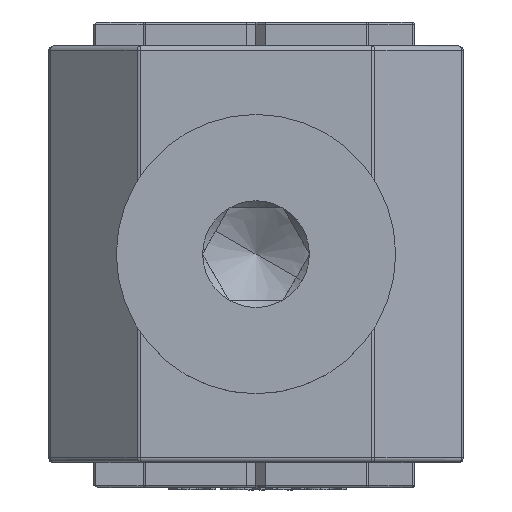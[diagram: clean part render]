
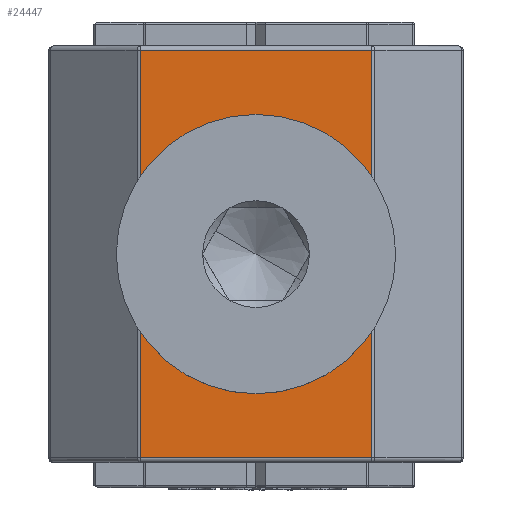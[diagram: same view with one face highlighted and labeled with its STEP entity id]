
A CAD part, top view. The second image highlights one B-rep face of the part: STEP entity #24447.
In plain terms, the highlighted planar face has unit normal (0, 0, 1) as drawn and (0, -1, 0) by its records, which use the part's own axes.
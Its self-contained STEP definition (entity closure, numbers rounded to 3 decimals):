
#109 = DIRECTION ( 'NONE',  ( 0., 1., 0. ) ) ;
#453 = AXIS2_PLACEMENT_3D ( 'NONE', #6167, #14233, #26016 ) ;
#788 = VECTOR ( 'NONE', #5586, 1000. ) ;
#1167 = ORIENTED_EDGE ( 'NONE', *, *, #24495, .T. ) ;
#2161 = ORIENTED_EDGE ( 'NONE', *, *, #17376, .T. ) ;
#2206 = CARTESIAN_POINT ( 'NONE',  ( -0.989, -4.2, -3.202 ) ) ;
#2359 = CARTESIAN_POINT ( 'NONE',  ( 4.971, -4.2, 8.95 ) ) ;
#2431 = LINE ( 'NONE', #14842, #2726 ) ;
#2470 = CARTESIAN_POINT ( 'NONE',  ( -2.342, -4.2, -2.565 ) ) ;
#2489 = EDGE_CURVE ( 'NONE', #12090, #17177, #17054, .T. ) ;
#2564 = AXIS2_PLACEMENT_3D ( 'NONE', #4332, #109, #12375 ) ;
#2726 = VECTOR ( 'NONE', #22379, 1000. ) ;
#3270 = ORIENTED_EDGE ( 'NONE', *, *, #8707, .T. ) ;
#3320 = VERTEX_POINT ( 'NONE', #16190 ) ;
#3808 = CARTESIAN_POINT ( 'NONE',  ( 4.971, -4.2, -8.75 ) ) ;
#3897 = CARTESIAN_POINT ( 'NONE',  ( -1.46, -4.2, 2.959 ) ) ;
#4029 = CARTESIAN_POINT ( 'NONE',  ( -2.854, -4.2, 1.938 ) ) ;
#4120 = VECTOR ( 'NONE', #19852, 1000. ) ;
#4209 = VERTEX_POINT ( 'NONE', #23009 ) ;
#4319 = CARTESIAN_POINT ( 'NONE',  ( -3.441, -4.2, 0.838 ) ) ;
#4332 = CARTESIAN_POINT ( 'NONE',  ( -5.05, -4.2, 8.95 ) ) ;
#4443 = CARTESIAN_POINT ( 'NONE',  ( -2.878, -4.2, -2.045 ) ) ;
#4465 = PLANE ( 'NONE',  #2564 ) ;
#4565 = CARTESIAN_POINT ( 'NONE',  ( -3.026, -4.2, -1.84 ) ) ;
#4658 = B_SPLINE_CURVE_WITH_KNOTS ( 'NONE', 3,
 ( #12327, #8350, #14061, #16322, #4029, #10205, #14316, #5852, #22004, #3897 ),
 .UNSPECIFIED., .F., .F.,
 ( 4, 2, 2, 2, 4 ),
 ( 0., 0.001, 0.001, 0.002, 0.003 ),
 .UNSPECIFIED. ) ;
#4708 = EDGE_CURVE ( 'NONE', #4209, #12090, #11079, .T. ) ;
#5586 = DIRECTION ( 'NONE',  ( -1., 0., 0. ) ) ;
#5852 = CARTESIAN_POINT ( 'NONE',  ( -1.914, -4.2, 2.751 ) ) ;
#6167 = CARTESIAN_POINT ( 'NONE',  ( 0., -4.2, 0. ) ) ;
#6180 = VERTEX_POINT ( 'NONE', #22167 ) ;
#6524 = CARTESIAN_POINT ( 'NONE',  ( -2.711, -4.2, -2.23 ) ) ;
#6667 = LINE ( 'NONE', #2359, #19152 ) ;
#6697 = CARTESIAN_POINT ( 'NONE',  ( -3.551, -4.2, 0.386 ) ) ;
#7565 = ORIENTED_EDGE ( 'NONE', *, *, #4708, .T. ) ;
#7673 = ORIENTED_EDGE ( 'NONE', *, *, #15843, .T. ) ;
#7917 = DIRECTION ( 'NONE',  ( -1., 0., 0. ) ) ;
#8287 = CARTESIAN_POINT ( 'NONE',  ( 5.05, -4.2, -8.75 ) ) ;
#8350 = CARTESIAN_POINT ( 'NONE',  ( -3.362, -4.2, 1.078 ) ) ;
#8698 = ORIENTED_EDGE ( 'NONE', *, *, #16700, .T. ) ;
#8707 = EDGE_CURVE ( 'NONE', #6180, #23832, #17774, .T. ) ;
#9254 = LINE ( 'NONE', #8287, #4120 ) ;
#9527 = CARTESIAN_POINT ( 'NONE',  ( -5.05, -4.2, 8.75 ) ) ;
#9590 = EDGE_LOOP ( 'NONE', ( #1167, #7673, #7565, #16723, #2161 ) ) ;
#10205 = CARTESIAN_POINT ( 'NONE',  ( -2.515, -4.2, 2.303 ) ) ;
#10228 = CARTESIAN_POINT ( 'NONE',  ( -1.471, -4.2, -3.058 ) ) ;
#10254 = FACE_BOUND ( 'NONE', #9590, .T. ) ;
#11079 = B_SPLINE_CURVE_WITH_KNOTS ( 'NONE', 3,
 ( #12208, #20317, #2206, #10228, #18337, #14608, #2470, #6524, #4443, #4565 ),
 .UNSPECIFIED., .F., .F.,
 ( 4, 2, 2, 2, 4 ),
 ( 0.003, 0.004, 0.005, 0.006, 0.006 ),
 .UNSPECIFIED. ) ;
#12090 = VERTEX_POINT ( 'NONE', #25573 ) ;
#12109 = FACE_OUTER_BOUND ( 'NONE', #19685, .T. ) ;
#12208 = CARTESIAN_POINT ( 'NONE',  ( -0.492, -4.2, -3.263 ) ) ;
#12327 = CARTESIAN_POINT ( 'NONE',  ( -3.441, -4.2, 0.838 ) ) ;
#12375 = DIRECTION ( 'NONE',  ( -1., 0., 0. ) ) ;
#12478 = VERTEX_POINT ( 'NONE', #3808 ) ;
#12535 = CARTESIAN_POINT ( 'NONE',  ( -3.429, -4.2, -0.998 ) ) ;
#13417 = EDGE_CURVE ( 'NONE', #23832, #22574, #2431, .T. ) ;
#13899 = ORIENTED_EDGE ( 'NONE', *, *, #13417, .T. ) ;
#14061 = CARTESIAN_POINT ( 'NONE',  ( -3.259, -4.2, 1.305 ) ) ;
#14233 = DIRECTION ( 'NONE',  ( 0., 1., 0. ) ) ;
#14316 = CARTESIAN_POINT ( 'NONE',  ( -2.328, -4.2, 2.467 ) ) ;
#14608 = CARTESIAN_POINT ( 'NONE',  ( -2.136, -4.2, -2.714 ) ) ;
#14761 = DIRECTION ( 'NONE',  ( 0., 0., 1. ) ) ;
#14842 = CARTESIAN_POINT ( 'NONE',  ( -4.971, -4.2, 8.95 ) ) ;
#15128 = ORIENTED_EDGE ( 'NONE', *, *, #25719, .T. ) ;
#15843 = EDGE_CURVE ( 'NONE', #3320, #4209, #21426, .T. ) ;
#16154 = CARTESIAN_POINT ( 'NONE',  ( 0., -4.2, 0. ) ) ;
#16190 = CARTESIAN_POINT ( 'NONE',  ( 3.3, -4.2, 0. ) ) ;
#16322 = CARTESIAN_POINT ( 'NONE',  ( -3.006, -4.2, 1.734 ) ) ;
#16353 = AXIS2_PLACEMENT_3D ( 'NONE', #16154, #20125, #7917 ) ;
#16520 = CARTESIAN_POINT ( 'NONE',  ( -3.267, -4.2, -1.443 ) ) ;
#16700 = EDGE_CURVE ( 'NONE', #22574, #12478, #9254, .T. ) ;
#16723 = ORIENTED_EDGE ( 'NONE', *, *, #2489, .T. ) ;
#17054 = B_SPLINE_CURVE_WITH_KNOTS ( 'NONE', 3,
 ( #24856, #16520, #12535, #18892, #6697, #22875 ),
 .UNSPECIFIED., .F., .F.,
 ( 4, 2, 4 ),
 ( 0., 0.001, 0.003 ),
 .UNSPECIFIED. ) ;
#17177 = VERTEX_POINT ( 'NONE', #4319 ) ;
#17376 = EDGE_CURVE ( 'NONE', #17177, #18872, #4658, .T. ) ;
#17774 = LINE ( 'NONE', #9527, #788 ) ;
#18337 = CARTESIAN_POINT ( 'NONE',  ( -1.701, -4.2, -2.96 ) ) ;
#18872 = VERTEX_POINT ( 'NONE', #21292 ) ;
#18892 = CARTESIAN_POINT ( 'NONE',  ( -3.57, -4.2, -0.088 ) ) ;
#19152 = VECTOR ( 'NONE', #14761, 1000. ) ;
#19685 = EDGE_LOOP ( 'NONE', ( #13899, #8698, #15128, #3270 ) ) ;
#19852 = DIRECTION ( 'NONE',  ( 1., 0., 0. ) ) ;
#19868 = CIRCLE ( 'NONE', #453, 3.3 ) ;
#20125 = DIRECTION ( 'NONE',  ( 0., 1., 0. ) ) ;
#20317 = CARTESIAN_POINT ( 'NONE',  ( -0.741, -4.2, -3.246 ) ) ;
#21292 = CARTESIAN_POINT ( 'NONE',  ( -1.46, -4.2, 2.959 ) ) ;
#21426 = CIRCLE ( 'NONE', #16353, 3.3 ) ;
#22004 = CARTESIAN_POINT ( 'NONE',  ( -1.691, -4.2, 2.869 ) ) ;
#22050 = CARTESIAN_POINT ( 'NONE',  ( -4.971, -4.2, -8.75 ) ) ;
#22167 = CARTESIAN_POINT ( 'NONE',  ( 4.971, -4.2, 8.75 ) ) ;
#22379 = DIRECTION ( 'NONE',  ( 0., 0., -1. ) ) ;
#22574 = VERTEX_POINT ( 'NONE', #22050 ) ;
#22875 = CARTESIAN_POINT ( 'NONE',  ( -3.441, -4.2, 0.838 ) ) ;
#23009 = CARTESIAN_POINT ( 'NONE',  ( -0.492, -4.2, -3.263 ) ) ;
#23832 = VERTEX_POINT ( 'NONE', #25988 ) ;
#24447 = ADVANCED_FACE ( 'NONE', ( #10254, #12109 ), #4465, .F. ) ;
#24495 = EDGE_CURVE ( 'NONE', #18872, #3320, #19868, .T. ) ;
#24856 = CARTESIAN_POINT ( 'NONE',  ( -3.026, -4.2, -1.84 ) ) ;
#25573 = CARTESIAN_POINT ( 'NONE',  ( -3.026, -4.2, -1.84 ) ) ;
#25719 = EDGE_CURVE ( 'NONE', #12478, #6180, #6667, .T. ) ;
#25988 = CARTESIAN_POINT ( 'NONE',  ( -4.971, -4.2, 8.75 ) ) ;
#26016 = DIRECTION ( 'NONE',  ( -1., 0., 0. ) ) ;
